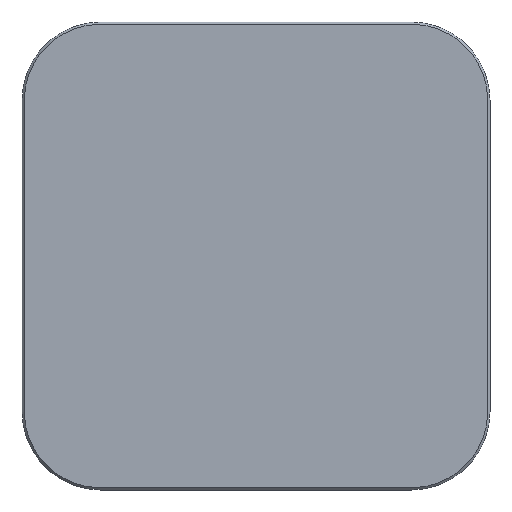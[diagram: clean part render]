
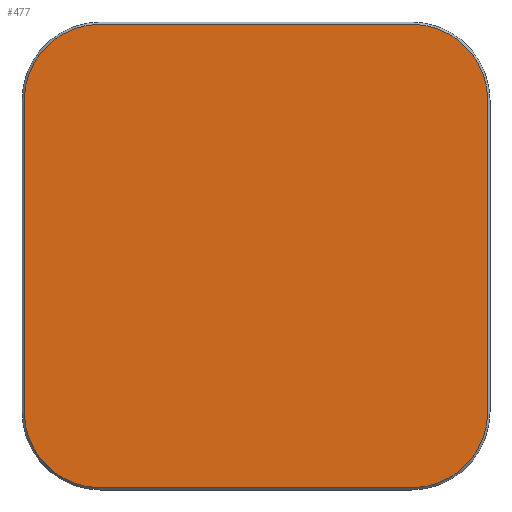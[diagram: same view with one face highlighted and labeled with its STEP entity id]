
A CAD part, front view. The second image highlights one B-rep face of the part: STEP entity #477.
In plain terms, the highlighted planar face has unit normal (0, -1, 0).
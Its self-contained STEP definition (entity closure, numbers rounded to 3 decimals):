
#402=CARTESIAN_POINT('',(0.,0.,0.));
#403=DIRECTION('',(0.,-1.,0.));
#404=DIRECTION('',(0.,0.,-1.));
#405=AXIS2_PLACEMENT_3D('',#402,#403,#404);
#406=PLANE('',#405);
#407=CARTESIAN_POINT('',(24.92,0.,-4.19));
#408=VERTEX_POINT('',#407);
#409=CARTESIAN_POINT('',(20.85,0.,-0.12));
#410=VERTEX_POINT('',#409);
#411=CARTESIAN_POINT('',(20.85,0.,-4.19));
#412=DIRECTION('',(0.,-1.,0.));
#413=DIRECTION('',(0.,0.,-1.));
#414=AXIS2_PLACEMENT_3D('',#411,#412,#413);
#415=CIRCLE('',#414,4.07);
#416=EDGE_CURVE('',#408,#410,#415,.T.);
#417=ORIENTED_EDGE('',*,*,#416,.T.);
#418=CARTESIAN_POINT('',(4.19,0.,-0.12));
#419=VERTEX_POINT('',#418);
#420=CARTESIAN_POINT('',(20.85,0.,-0.12));
#421=DIRECTION('',(-1.,0.,0.));
#422=VECTOR('',#421,16.66);
#423=LINE('',#420,#422);
#424=EDGE_CURVE('',#410,#419,#423,.T.);
#425=ORIENTED_EDGE('',*,*,#424,.T.);
#426=CARTESIAN_POINT('',(0.12,0.,-4.19));
#427=VERTEX_POINT('',#426);
#428=CARTESIAN_POINT('',(4.19,0.,-4.19));
#429=DIRECTION('',(0.,-1.,0.));
#430=DIRECTION('',(0.,0.,-1.));
#431=AXIS2_PLACEMENT_3D('',#428,#429,#430);
#432=CIRCLE('',#431,4.07);
#433=EDGE_CURVE('',#419,#427,#432,.T.);
#434=ORIENTED_EDGE('',*,*,#433,.T.);
#435=CARTESIAN_POINT('',(0.12,0.,-20.85));
#436=VERTEX_POINT('',#435);
#437=CARTESIAN_POINT('',(0.12,0.,-4.19));
#438=DIRECTION('',(0.,0.,-1.));
#439=VECTOR('',#438,16.66);
#440=LINE('',#437,#439);
#441=EDGE_CURVE('',#427,#436,#440,.T.);
#442=ORIENTED_EDGE('',*,*,#441,.T.);
#443=CARTESIAN_POINT('',(4.19,0.,-24.92));
#444=VERTEX_POINT('',#443);
#445=CARTESIAN_POINT('',(4.19,0.,-20.85));
#446=DIRECTION('',(0.,-1.,0.));
#447=DIRECTION('',(0.,0.,-1.));
#448=AXIS2_PLACEMENT_3D('',#445,#446,#447);
#449=CIRCLE('',#448,4.07);
#450=EDGE_CURVE('',#436,#444,#449,.T.);
#451=ORIENTED_EDGE('',*,*,#450,.T.);
#452=CARTESIAN_POINT('',(20.85,0.,-24.92));
#453=VERTEX_POINT('',#452);
#454=CARTESIAN_POINT('',(4.19,0.,-24.92));
#455=DIRECTION('',(1.,0.,-0.));
#456=VECTOR('',#455,16.66);
#457=LINE('',#454,#456);
#458=EDGE_CURVE('',#444,#453,#457,.T.);
#459=ORIENTED_EDGE('',*,*,#458,.T.);
#460=CARTESIAN_POINT('',(24.92,0.,-20.85));
#461=VERTEX_POINT('',#460);
#462=CARTESIAN_POINT('',(20.85,0.,-20.85));
#463=DIRECTION('',(0.,-1.,0.));
#464=DIRECTION('',(0.,0.,-1.));
#465=AXIS2_PLACEMENT_3D('',#462,#463,#464);
#466=CIRCLE('',#465,4.07);
#467=EDGE_CURVE('',#453,#461,#466,.T.);
#468=ORIENTED_EDGE('',*,*,#467,.T.);
#469=CARTESIAN_POINT('',(24.92,0.,-20.85));
#470=DIRECTION('',(0.,0.,1.));
#471=VECTOR('',#470,16.66);
#472=LINE('',#469,#471);
#473=EDGE_CURVE('',#461,#408,#472,.T.);
#474=ORIENTED_EDGE('',*,*,#473,.T.);
#475=EDGE_LOOP('',(#417,#425,#434,#442,#451,#459,#468,#474));
#476=FACE_BOUND('',#475,.T.);
#477=ADVANCED_FACE('',(#476),#406,.T.);
